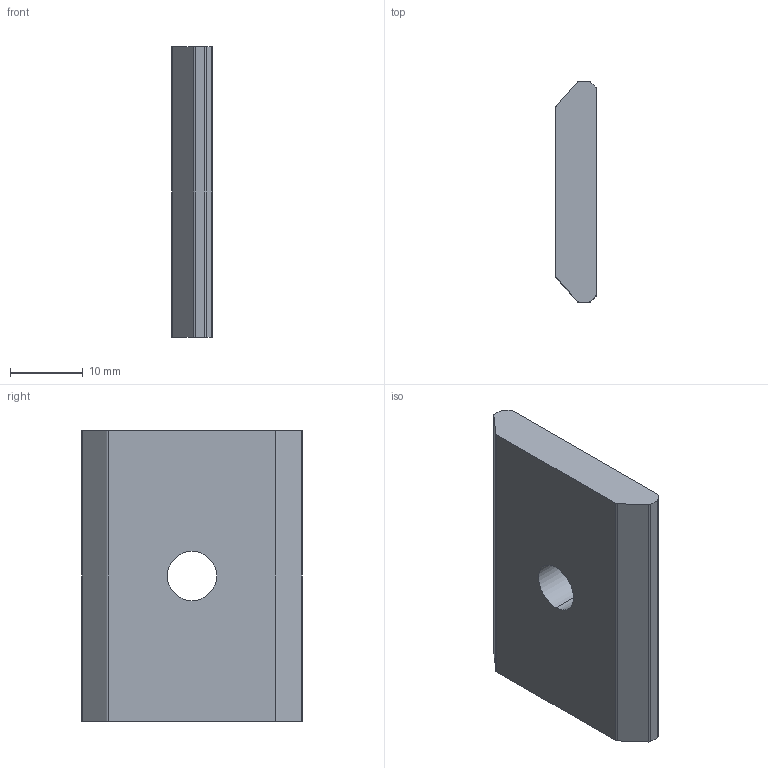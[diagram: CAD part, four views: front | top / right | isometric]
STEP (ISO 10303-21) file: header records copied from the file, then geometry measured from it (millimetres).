
FILE_DESCRIPTION (( 'STEP AP214' ), '1' );
FILE_NAME ('ECQA 40 M8.step', '2017-04-05T07:36:08', ( '' ), ( '' ), 'SwSTEP 2.0', 'SolidWorks 2015', '' );
FILE_SCHEMA (( 'AUTOMOTIVE_DESIGN' ));
Length unit declared in the file: millimetre
Products named in the file (1): ECQA 40 M8
Bounding box: 5.6 x 30.4 x 40 mm (x, y, z)
Volume: 6139.7 mm3; surface area: 3042.2 mm2
Topology: 1 solids, 1 shells, 20 faces, 54 edges, 36 vertices
Faces by surface type: cylinder 10, plane 10
Entity records: 698 total; most frequent: DIRECTION 116, CARTESIAN_POINT 111, ORIENTED_EDGE 108, EDGE_CURVE 54, AXIS2_PLACEMENT_3D 41, VERTEX_POINT 36, LINE 34, VECTOR 34
